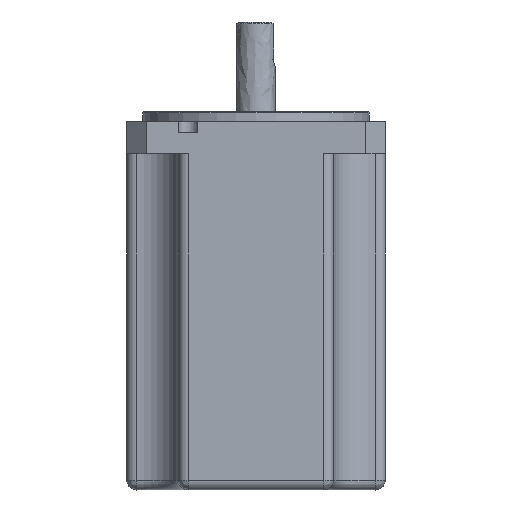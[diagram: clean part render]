
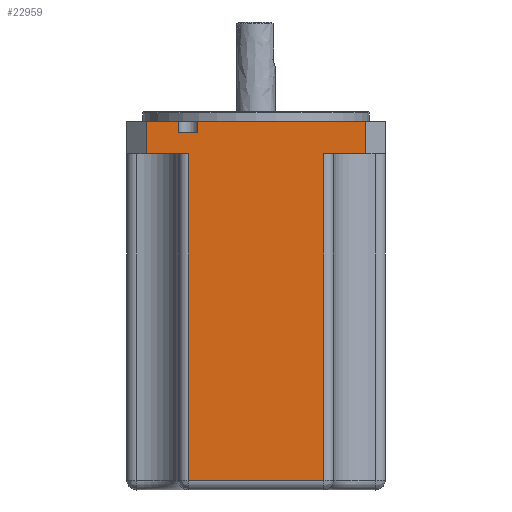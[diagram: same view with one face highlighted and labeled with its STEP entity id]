
A CAD part, front view. The second image highlights one B-rep face of the part: STEP entity #22959.
In plain terms, the highlighted planar face has unit normal (0, 1, 0).
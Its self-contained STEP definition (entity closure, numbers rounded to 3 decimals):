
#34 = VERTEX_POINT ( 'NONE', #28131 ) ;
#170 = EDGE_CURVE ( 'NONE', #26734, #7856, #10430, .T. ) ;
#275 = LINE ( 'NONE', #14786, #976 ) ;
#432 = VECTOR ( 'NONE', #11518, 1000. ) ;
#551 = FACE_OUTER_BOUND ( 'NONE', #16880, .T. ) ;
#832 = LINE ( 'NONE', #25992, #4736 ) ;
#913 = CARTESIAN_POINT ( 'NONE',  ( -21., -40., -114. ) ) ;
#976 = VECTOR ( 'NONE', #8054, 1000. ) ;
#1317 = EDGE_CURVE ( 'NONE', #28777, #34, #20269, .T. ) ;
#1541 = EDGE_CURVE ( 'NONE', #34, #6624, #4713, .T. ) ;
#1729 = CARTESIAN_POINT ( 'NONE',  ( 40.8, -40., -124. ) ) ;
#1759 = EDGE_CURVE ( 'NONE', #6624, #17938, #18503, .T. ) ;
#1794 = DIRECTION ( 'NONE',  ( 0., 0., 1. ) ) ;
#2286 = ORIENTED_EDGE ( 'NONE', *, *, #1317, .T. ) ;
#2506 = DIRECTION ( 'NONE',  ( 1., 0., 0. ) ) ;
#3673 = LINE ( 'NONE', #21955, #15014 ) ;
#3897 = VECTOR ( 'NONE', #27283, 1000. ) ;
#3996 = DIRECTION ( 'NONE',  ( 0., 1., 0. ) ) ;
#4068 = CARTESIAN_POINT ( 'NONE',  ( -18., -40., -124. ) ) ;
#4713 = LINE ( 'NONE', #13728, #22740 ) ;
#4736 = VECTOR ( 'NONE', #28281, 1000. ) ;
#4755 = CARTESIAN_POINT ( 'NONE',  ( -21., -40., -124. ) ) ;
#4851 = LINE ( 'NONE', #5889, #21442 ) ;
#4876 = ORIENTED_EDGE ( 'NONE', *, *, #6141, .T. ) ;
#4983 = VERTEX_POINT ( 'NONE', #26001 ) ;
#5889 = CARTESIAN_POINT ( 'NONE',  ( 40.8, -40., -3. ) ) ;
#6141 = EDGE_CURVE ( 'NONE', #29348, #11520, #275, .T. ) ;
#6461 = VECTOR ( 'NONE', #12619, 1000. ) ;
#6624 = VERTEX_POINT ( 'NONE', #19776 ) ;
#6634 = DIRECTION ( 'NONE',  ( 0., 0., -1. ) ) ;
#7536 = VECTOR ( 'NONE', #1794, 1000. ) ;
#7856 = VERTEX_POINT ( 'NONE', #24145 ) ;
#8054 = DIRECTION ( 'NONE',  ( 0., 0., -1. ) ) ;
#8174 = DIRECTION ( 'NONE',  ( 0., 0., -1. ) ) ;
#8335 = AXIS2_PLACEMENT_3D ( 'NONE', #1729, #3996, #19808 ) ;
#8443 = DIRECTION ( 'NONE',  ( 1., 0., 0. ) ) ;
#9175 = CARTESIAN_POINT ( 'NONE',  ( 40.8, -40., -114. ) ) ;
#9625 = ORIENTED_EDGE ( 'NONE', *, *, #12215, .T. ) ;
#10214 = CARTESIAN_POINT ( 'NONE',  ( 34., -40., -13. ) ) ;
#10430 = LINE ( 'NONE', #23735, #28485 ) ;
#10452 = DIRECTION ( 'NONE',  ( 1., 0., 0. ) ) ;
#10763 = CARTESIAN_POINT ( 'NONE',  ( -18., -40., -6.5 ) ) ;
#11037 = EDGE_CURVE ( 'NONE', #7856, #18630, #832, .T. ) ;
#11118 = CARTESIAN_POINT ( 'NONE',  ( 34., -40., -124. ) ) ;
#11518 = DIRECTION ( 'NONE',  ( 0., 0., 1. ) ) ;
#11520 = VERTEX_POINT ( 'NONE', #13074 ) ;
#11883 = CARTESIAN_POINT ( 'NONE',  ( -21., -40., -13. ) ) ;
#12215 = EDGE_CURVE ( 'NONE', #27262, #26734, #12505, .T. ) ;
#12472 = CARTESIAN_POINT ( 'NONE',  ( -24., -40., -3. ) ) ;
#12505 = LINE ( 'NONE', #4755, #432 ) ;
#12619 = DIRECTION ( 'NONE',  ( -1., 0., 0. ) ) ;
#13074 = CARTESIAN_POINT ( 'NONE',  ( 21., -40., -114. ) ) ;
#13648 = VERTEX_POINT ( 'NONE', #12472 ) ;
#13728 = CARTESIAN_POINT ( 'NONE',  ( 40.8, -40., -3. ) ) ;
#13749 = ORIENTED_EDGE ( 'NONE', *, *, #170, .T. ) ;
#13902 = ORIENTED_EDGE ( 'NONE', *, *, #21813, .T. ) ;
#14786 = CARTESIAN_POINT ( 'NONE',  ( 21., -40., -124. ) ) ;
#15014 = VECTOR ( 'NONE', #8443, 1000. ) ;
#15598 = EDGE_CURVE ( 'NONE', #11520, #27262, #21937, .T. ) ;
#16222 = VECTOR ( 'NONE', #8174, 1000. ) ;
#16805 = CARTESIAN_POINT ( 'NONE',  ( 21., -40., -13. ) ) ;
#16880 = EDGE_LOOP ( 'NONE', ( #25547, #9625, #13749, #19956, #13902, #28773, #18219, #2286, #19460, #18231, #26991, #4876 ) ) ;
#17274 = CARTESIAN_POINT ( 'NONE',  ( -34., -40., -3. ) ) ;
#17938 = VERTEX_POINT ( 'NONE', #10214 ) ;
#18219 = ORIENTED_EDGE ( 'NONE', *, *, #24910, .T. ) ;
#18231 = ORIENTED_EDGE ( 'NONE', *, *, #1759, .T. ) ;
#18503 = LINE ( 'NONE', #11118, #23803 ) ;
#18618 = EDGE_CURVE ( 'NONE', #13648, #4983, #28264, .T. ) ;
#18630 = VERTEX_POINT ( 'NONE', #17274 ) ;
#19460 = ORIENTED_EDGE ( 'NONE', *, *, #1541, .T. ) ;
#19720 = PLANE ( 'NONE',  #8335 ) ;
#19776 = CARTESIAN_POINT ( 'NONE',  ( 34., -40., -3. ) ) ;
#19808 = DIRECTION ( 'NONE',  ( -1., 0., 0. ) ) ;
#19825 = DIRECTION ( 'NONE',  ( -1., 0., 0. ) ) ;
#19956 = ORIENTED_EDGE ( 'NONE', *, *, #11037, .T. ) ;
#20269 = LINE ( 'NONE', #4068, #7536 ) ;
#21442 = VECTOR ( 'NONE', #10452, 1000. ) ;
#21813 = EDGE_CURVE ( 'NONE', #18630, #13648, #4851, .T. ) ;
#21937 = LINE ( 'NONE', #9175, #3897 ) ;
#21955 = CARTESIAN_POINT ( 'NONE',  ( 40.8, -40., -6.5 ) ) ;
#22740 = VECTOR ( 'NONE', #2506, 1000. ) ;
#22959 = ADVANCED_FACE ( 'NONE', ( #551 ), #19720, .T. ) ;
#23735 = CARTESIAN_POINT ( 'NONE',  ( 40.8, -40., -13. ) ) ;
#23803 = VECTOR ( 'NONE', #6634, 1000. ) ;
#23998 = CARTESIAN_POINT ( 'NONE',  ( -24., -40., -124. ) ) ;
#24145 = CARTESIAN_POINT ( 'NONE',  ( -34., -40., -13. ) ) ;
#24507 = LINE ( 'NONE', #28434, #6461 ) ;
#24910 = EDGE_CURVE ( 'NONE', #4983, #28777, #3673, .T. ) ;
#25547 = ORIENTED_EDGE ( 'NONE', *, *, #15598, .T. ) ;
#25992 = CARTESIAN_POINT ( 'NONE',  ( -34., -40., -124. ) ) ;
#26001 = CARTESIAN_POINT ( 'NONE',  ( -24., -40., -6.5 ) ) ;
#26734 = VERTEX_POINT ( 'NONE', #11883 ) ;
#26991 = ORIENTED_EDGE ( 'NONE', *, *, #27321, .T. ) ;
#27262 = VERTEX_POINT ( 'NONE', #913 ) ;
#27283 = DIRECTION ( 'NONE',  ( -1., 0., 0. ) ) ;
#27321 = EDGE_CURVE ( 'NONE', #17938, #29348, #24507, .T. ) ;
#28131 = CARTESIAN_POINT ( 'NONE',  ( -18., -40., -3. ) ) ;
#28264 = LINE ( 'NONE', #23998, #16222 ) ;
#28281 = DIRECTION ( 'NONE',  ( 0., 0., 1. ) ) ;
#28434 = CARTESIAN_POINT ( 'NONE',  ( 40.8, -40., -13. ) ) ;
#28485 = VECTOR ( 'NONE', #19825, 1000. ) ;
#28773 = ORIENTED_EDGE ( 'NONE', *, *, #18618, .T. ) ;
#28777 = VERTEX_POINT ( 'NONE', #10763 ) ;
#29348 = VERTEX_POINT ( 'NONE', #16805 ) ;
